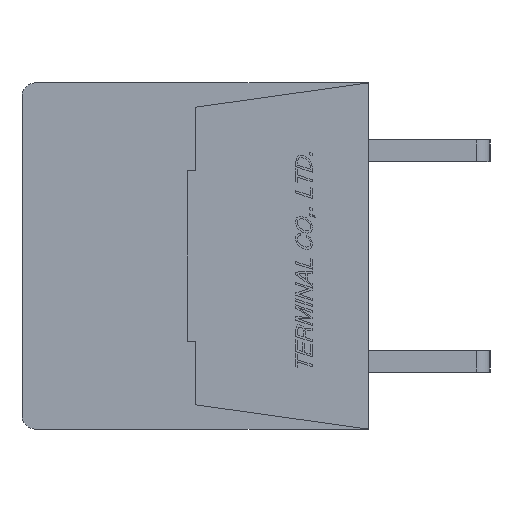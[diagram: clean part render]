
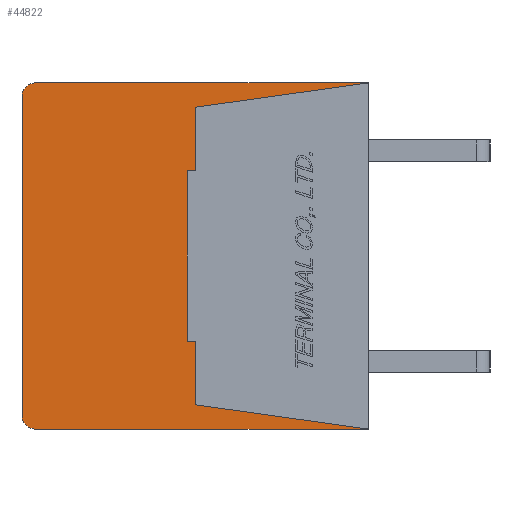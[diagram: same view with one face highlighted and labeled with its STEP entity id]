
A CAD part, left-side view. The second image highlights one B-rep face of the part: STEP entity #44822.
In plain terms, the highlighted planar face has unit normal (-1, 0, 0).
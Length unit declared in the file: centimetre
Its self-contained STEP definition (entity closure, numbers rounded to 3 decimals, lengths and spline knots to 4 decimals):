
#2270=CIRCLE('',#76747,0.05);
#2271=CIRCLE('',#76750,0.05);
#3952=VERTEX_POINT('',#62219);
#3953=VERTEX_POINT('',#62221);
#3954=VERTEX_POINT('',#62225);
#3955=VERTEX_POINT('',#62229);
#3956=VERTEX_POINT('',#62233);
#3957=VERTEX_POINT('',#62237);
#3958=VERTEX_POINT('',#62241);
#3959=VERTEX_POINT('',#62243);
#3960=VERTEX_POINT('',#62245);
#3961=VERTEX_POINT('',#62247);
#3962=VERTEX_POINT('',#62249);
#3963=VERTEX_POINT('',#62251);
#8696=VECTOR('',#52016,1.);
#8700=VECTOR('',#52025,1.);
#8703=VECTOR('',#52033,1.);
#8704=VECTOR('',#52035,1.);
#8705=VECTOR('',#52036,1.);
#8706=VECTOR('',#52037,1.);
#8707=VECTOR('',#52038,1.);
#8708=VECTOR('',#52039,1.);
#8709=VECTOR('',#52040,1.);
#8710=VECTOR('',#52041,1.);
#13962=LINE('',#62220,#8696);
#13966=LINE('',#62230,#8700);
#13969=LINE('',#62238,#8703);
#13970=LINE('',#62240,#8704);
#13971=LINE('',#62242,#8705);
#13972=LINE('',#62244,#8706);
#13973=LINE('',#62246,#8707);
#13974=LINE('',#62248,#8708);
#13975=LINE('',#62250,#8709);
#13976=LINE('',#62252,#8710);
#19836=EDGE_CURVE('',#3953,#3952,#13962,.T.);
#19839=EDGE_CURVE('',#3954,#3952,#2270,.T.);
#19841=EDGE_CURVE('',#3954,#3955,#13966,.T.);
#19843=EDGE_CURVE('',#3956,#3955,#2271,.T.);
#19845=EDGE_CURVE('',#3956,#3957,#13969,.T.);
#19846=EDGE_CURVE('',#3958,#3953,#13970,.T.);
#19847=EDGE_CURVE('',#3957,#3959,#13971,.T.);
#19848=EDGE_CURVE('',#3959,#3960,#13972,.T.);
#19849=EDGE_CURVE('',#3960,#3961,#13973,.T.);
#19850=EDGE_CURVE('',#3961,#3962,#13974,.T.);
#19851=EDGE_CURVE('',#3962,#3963,#13975,.T.);
#19852=EDGE_CURVE('',#3963,#3958,#13976,.T.);
#28927=ORIENTED_EDGE('',*,*,#19846,.T.);
#28928=ORIENTED_EDGE('',*,*,#19836,.T.);
#28929=ORIENTED_EDGE('',*,*,#19839,.F.);
#28930=ORIENTED_EDGE('',*,*,#19841,.T.);
#28931=ORIENTED_EDGE('',*,*,#19843,.F.);
#28932=ORIENTED_EDGE('',*,*,#19845,.T.);
#28933=ORIENTED_EDGE('',*,*,#19847,.T.);
#28934=ORIENTED_EDGE('',*,*,#19848,.T.);
#28935=ORIENTED_EDGE('',*,*,#19849,.T.);
#28936=ORIENTED_EDGE('',*,*,#19850,.T.);
#28937=ORIENTED_EDGE('',*,*,#19851,.T.);
#28938=ORIENTED_EDGE('',*,*,#19852,.T.);
#39028=EDGE_LOOP('',(#28927,#28928,#28929,#28930,#28931,#28932,#28933,#28934,
#28935,#28936,#28937,#28938));
#41986=FACE_BOUND('',#39028,.T.);
#44822=ADVANCED_FACE('',(#41986),#47278,.F.);
#47278=PLANE('',#76752);
#52016=DIRECTION('',(0.,1.,0.));
#52021=DIRECTION('',(1.,0.,0.));
#52022=DIRECTION('',(0.,0.,-0.05));
#52025=DIRECTION('',(0.,0.,-1.));
#52029=DIRECTION('',(1.,0.,0.));
#52030=DIRECTION('',(0.,0.,-0.05));
#52033=DIRECTION('',(0.,-1.,0.));
#52034=DIRECTION('',(1.,0.,0.));
#52035=DIRECTION('',(0.,-0.99,0.139));
#52036=DIRECTION('',(0.,0.99,0.139));
#52037=DIRECTION('',(0.,0.,1.));
#52038=DIRECTION('',(0.,1.,0.));
#52039=DIRECTION('',(0.,0.,1.));
#52040=DIRECTION('',(0.,-1.,0.));
#52041=DIRECTION('',(0.,0.,1.));
#62219=CARTESIAN_POINT('',(-1.,1.23,0.64));
#62220=CARTESIAN_POINT('',(-1.,0.,0.64));
#62221=CARTESIAN_POINT('',(-1.,0.,0.64));
#62225=CARTESIAN_POINT('',(-1.,1.28,0.59));
#62226=CARTESIAN_POINT('',(-1.,1.23,0.59));
#62229=CARTESIAN_POINT('',(-1.,1.28,-0.59));
#62230=CARTESIAN_POINT('',(-1.,1.28,0.59));
#62233=CARTESIAN_POINT('',(-1.,1.23,-0.64));
#62234=CARTESIAN_POINT('',(-1.,1.23,-0.59));
#62237=CARTESIAN_POINT('',(-1.,0.,-0.64));
#62238=CARTESIAN_POINT('',(-1.,1.23,-0.64));
#62239=CARTESIAN_POINT('',(-1.,0.6345,0.));
#62240=CARTESIAN_POINT('',(-1.,0.64,0.55));
#62241=CARTESIAN_POINT('',(-1.,0.64,0.55));
#62242=CARTESIAN_POINT('',(-1.,0.,-0.64));
#62243=CARTESIAN_POINT('',(-1.,0.64,-0.55));
#62244=CARTESIAN_POINT('',(-1.,0.64,-0.55));
#62245=CARTESIAN_POINT('',(-1.,0.64,-0.315));
#62246=CARTESIAN_POINT('',(-1.,0.64,-0.315));
#62247=CARTESIAN_POINT('',(-1.,0.67,-0.315));
#62248=CARTESIAN_POINT('',(-1.,0.67,-0.315));
#62249=CARTESIAN_POINT('',(-1.,0.67,0.315));
#62250=CARTESIAN_POINT('',(-1.,0.67,0.315));
#62251=CARTESIAN_POINT('',(-1.,0.64,0.315));
#62252=CARTESIAN_POINT('',(-1.,0.64,0.315));
#76747=AXIS2_PLACEMENT_3D('',#62226,#52021,#52022);
#76750=AXIS2_PLACEMENT_3D('',#62234,#52029,#52030);
#76752=AXIS2_PLACEMENT_3D('',#62239,#52034,$);
